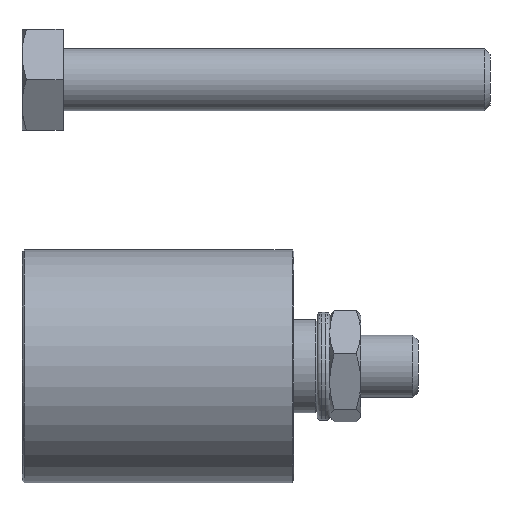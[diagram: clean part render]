
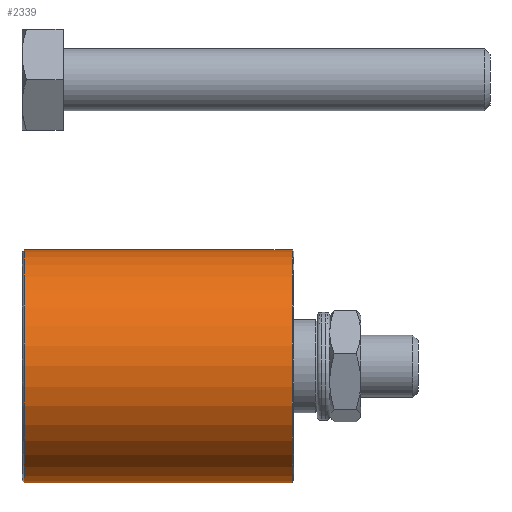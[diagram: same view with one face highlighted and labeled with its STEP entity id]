
A CAD part, front view. The second image highlights one B-rep face of the part: STEP entity #2339.
In plain terms, the highlighted cylindrical face has radius 15 mm (diameter 30 mm), a partial arc.
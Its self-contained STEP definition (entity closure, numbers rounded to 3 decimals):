
#62 = FACE_OUTER_BOUND ( 'NONE', #1431, .T. ) ;
#210 = DIRECTION ( 'NONE',  ( 0., -1., 0. ) ) ;
#307 = CARTESIAN_POINT ( 'NONE',  ( 0., -17.25, -15. ) ) ;
#413 = DIRECTION ( 'NONE',  ( 0., 0., -1. ) ) ;
#415 = EDGE_CURVE ( 'NONE', #2898, #2408, #2538, .T. ) ;
#564 = CYLINDRICAL_SURFACE ( 'NONE', #1376, 15. ) ;
#725 = VERTEX_POINT ( 'NONE', #1994 ) ;
#1055 = EDGE_CURVE ( 'NONE', #725, #1676, #2794, .T. ) ;
#1376 = AXIS2_PLACEMENT_3D ( 'NONE', #2852, #4849, #413 ) ;
#1431 = EDGE_LOOP ( 'NONE', ( #4894, #2847, #3093, #4093 ) ) ;
#1575 = EDGE_CURVE ( 'NONE', #725, #2898, #3817, .T. ) ;
#1577 = DIRECTION ( 'NONE',  ( 0., -1., 0. ) ) ;
#1676 = VERTEX_POINT ( 'NONE', #307 ) ;
#1820 = CARTESIAN_POINT ( 'NONE',  ( 0., 17.25, 0. ) ) ;
#1839 = DIRECTION ( 'NONE',  ( 0., 0., 1. ) ) ;
#1967 = DIRECTION ( 'NONE',  ( 0., 1., 0. ) ) ;
#1994 = CARTESIAN_POINT ( 'NONE',  ( 0., 17.25, -15. ) ) ;
#2146 = CARTESIAN_POINT ( 'NONE',  ( 0., -17.25, 15. ) ) ;
#2282 = DIRECTION ( 'NONE',  ( 0., -1., 0. ) ) ;
#2339 = ADVANCED_FACE ( 'NONE', ( #62 ), #564, .T. ) ;
#2408 = VERTEX_POINT ( 'NONE', #2146 ) ;
#2527 = AXIS2_PLACEMENT_3D ( 'NONE', #1820, #210, #1839 ) ;
#2538 = LINE ( 'NONE', #3561, #2731 ) ;
#2731 = VECTOR ( 'NONE', #1577, 1000. ) ;
#2794 = LINE ( 'NONE', #3449, #4603 ) ;
#2847 = ORIENTED_EDGE ( 'NONE', *, *, #415, .T. ) ;
#2852 = CARTESIAN_POINT ( 'NONE',  ( 0., 17.5, 0. ) ) ;
#2898 = VERTEX_POINT ( 'NONE', #3979 ) ;
#2931 = EDGE_CURVE ( 'NONE', #2408, #1676, #4090, .T. ) ;
#3093 = ORIENTED_EDGE ( 'NONE', *, *, #2931, .T. ) ;
#3380 = AXIS2_PLACEMENT_3D ( 'NONE', #3999, #1967, #4799 ) ;
#3449 = CARTESIAN_POINT ( 'NONE',  ( 0., 17.5, -15. ) ) ;
#3561 = CARTESIAN_POINT ( 'NONE',  ( 0., 17.5, 15. ) ) ;
#3817 = CIRCLE ( 'NONE', #2527, 15. ) ;
#3979 = CARTESIAN_POINT ( 'NONE',  ( 0., 17.25, 15. ) ) ;
#3999 = CARTESIAN_POINT ( 'NONE',  ( 0., -17.25, 0. ) ) ;
#4090 = CIRCLE ( 'NONE', #3380, 15. ) ;
#4093 = ORIENTED_EDGE ( 'NONE', *, *, #1055, .F. ) ;
#4603 = VECTOR ( 'NONE', #2282, 1000. ) ;
#4799 = DIRECTION ( 'NONE',  ( 0., 0., 1. ) ) ;
#4849 = DIRECTION ( 'NONE',  ( 0., -1., 0. ) ) ;
#4894 = ORIENTED_EDGE ( 'NONE', *, *, #1575, .T. ) ;
